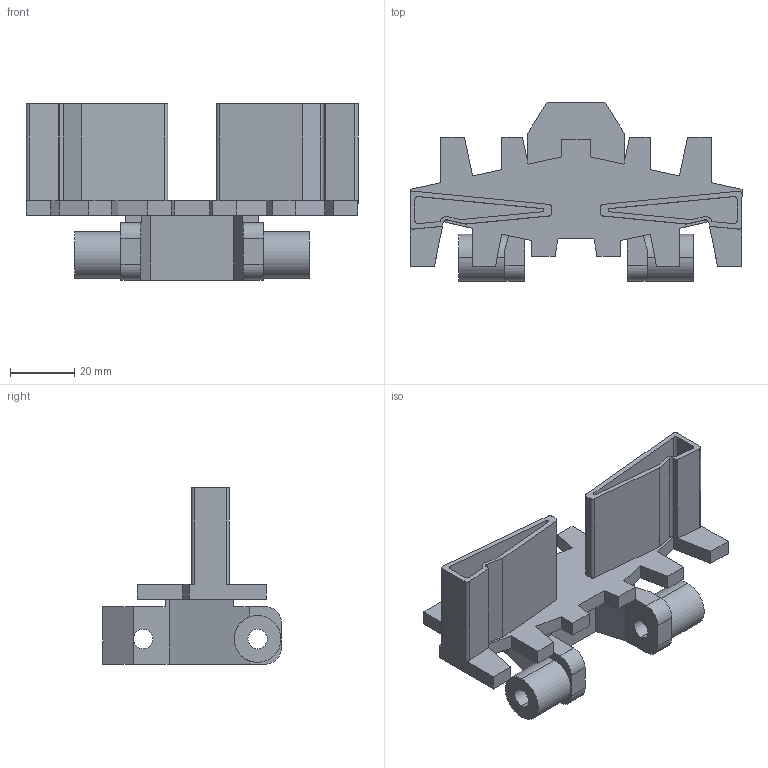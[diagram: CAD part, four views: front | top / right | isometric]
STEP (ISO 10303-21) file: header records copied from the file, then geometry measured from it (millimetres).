
FILE_DESCRIPTION (( 'STEP AP214' ), '1' );
FILE_NAME ('FCCT-5A30.STEP', '2011-04-14T11:16:06', ( '.' ), ( '' ), 'SwSTEP 2.0', 'SolidWorks 2010', '' );
FILE_SCHEMA (( 'AUTOMOTIVE_DESIGN' ));
Length unit declared in the file: millimetre
Products named in the file (1): FCCT-5A30
Bounding box: 103 x 55.39 x 54.75 mm (x, y, z)
Volume: 47579.4 mm3; surface area: 26707 mm2
Topology: 1 solids, 1 shells, 137 faces, 394 edges, 262 vertices
Faces by surface type: plane 101, cylinder 36
Entity records: 4514 total; most frequent: CARTESIAN_POINT 800, ORIENTED_EDGE 788, DIRECTION 744, EDGE_CURVE 394, VECTOR 316, LINE 316, VERTEX_POINT 262, AXIS2_PLACEMENT_3D 214
